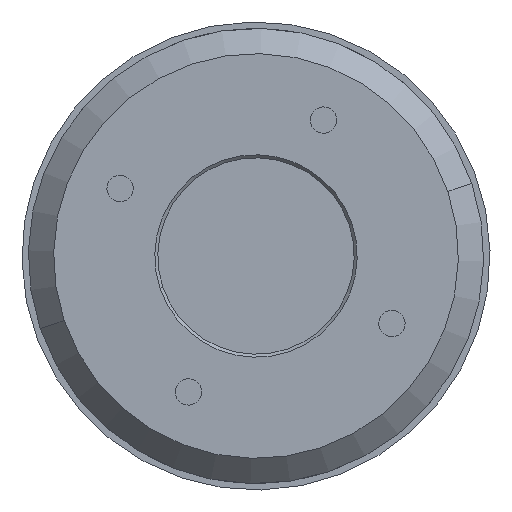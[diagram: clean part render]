
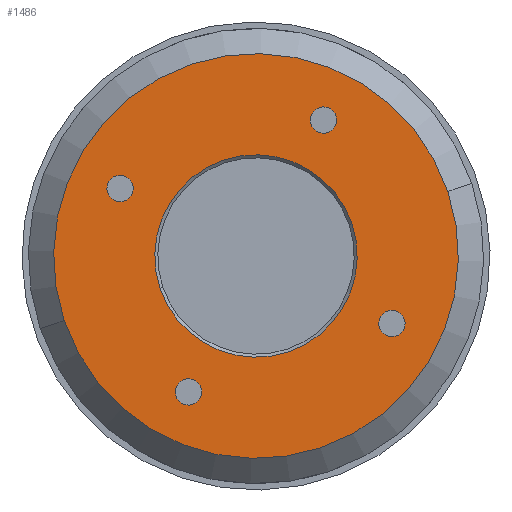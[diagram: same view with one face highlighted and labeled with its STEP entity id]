
A CAD part, front view. The second image highlights one B-rep face of the part: STEP entity #1486.
In plain terms, the highlighted planar face has unit normal (0, -1, 0).
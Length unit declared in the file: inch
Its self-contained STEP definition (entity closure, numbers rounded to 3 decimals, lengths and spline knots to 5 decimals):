
#23 = DIRECTION ( 'NONE',  ( 0., 1., 0. ) ) ;
#30 = CARTESIAN_POINT ( 'NONE',  ( 0., -0.55, 0. ) ) ;
#73 = EDGE_CURVE ( 'NONE', #906, #1903, #1144, .T. ) ;
#100 = AXIS2_PLACEMENT_3D ( 'NONE', #2277, #282, #2616 ) ;
#147 = DIRECTION ( 'NONE',  ( 0., -1., 0. ) ) ;
#151 = CARTESIAN_POINT ( 'NONE',  ( -0.47388, -0.55, -0.15948 ) ) ;
#170 = CARTESIAN_POINT ( 'NONE',  ( -0.73339, -0.55, 0.31274 ) ) ;
#175 = FACE_BOUND ( 'NONE', #649, .T. ) ;
#282 = DIRECTION ( 'NONE',  ( 0., -1., 0. ) ) ;
#361 = CARTESIAN_POINT ( 'NONE',  ( -0.61018, -0.55, 0.35421 ) ) ;
#369 = DIRECTION ( 'NONE',  ( 0., -1., 0. ) ) ;
#382 = DIRECTION ( 'NONE',  ( -0.948, 0., -0.319 ) ) ;
#400 = ORIENTED_EDGE ( 'NONE', *, *, #2669, .F. ) ;
#440 = CIRCLE ( 'NONE', #4124, 0.065 ) ;
#456 = AXIS2_PLACEMENT_3D ( 'NONE', #2354, #369, #2702 ) ;
#489 = CARTESIAN_POINT ( 'NONE',  ( 0., -0.55, 0. ) ) ;
#508 = EDGE_LOOP ( 'NONE', ( #1771, #2580 ) ) ;
#606 = EDGE_CURVE ( 'NONE', #1903, #906, #3071, .T. ) ;
#607 = CIRCLE ( 'NONE', #4170, 0.5 ) ;
#640 = ORIENTED_EDGE ( 'NONE', *, *, #3138, .F. ) ;
#649 = EDGE_LOOP ( 'NONE', ( #3422, #1126 ) ) ;
#653 = VERTEX_POINT ( 'NONE', #170 ) ;
#666 = DIRECTION ( 'NONE',  ( 0., -1., 0. ) ) ;
#794 = CARTESIAN_POINT ( 'NONE',  ( -0.39508, -0.55, -0.69252 ) ) ;
#838 = EDGE_CURVE ( 'NONE', #3035, #3882, #2657, .T. ) ;
#898 = EDGE_CURVE ( 'NONE', #1570, #2798, #2338, .T. ) ;
#906 = VERTEX_POINT ( 'NONE', #1765 ) ;
#943 = AXIS2_PLACEMENT_3D ( 'NONE', #3455, #1441, #3799 ) ;
#974 = CARTESIAN_POINT ( 'NONE',  ( 0.61018, -0.55, -0.35421 ) ) ;
#1002 = DIRECTION ( 'NONE',  ( 0., -1., 0. ) ) ;
#1064 = DIRECTION ( 'NONE',  ( 0., -1., 0. ) ) ;
#1070 = CIRCLE ( 'NONE', #3850, 0.065 ) ;
#1112 = DIRECTION ( 'NONE',  ( 0., -1., 0. ) ) ;
#1113 = EDGE_LOOP ( 'NONE', ( #640, #400 ) ) ;
#1126 = ORIENTED_EDGE ( 'NONE', *, *, #838, .F. ) ;
#1136 = CARTESIAN_POINT ( 'NONE',  ( 0.67178, -0.55, -0.33348 ) ) ;
#1144 = CIRCLE ( 'NONE', #2380, 1. ) ;
#1164 = CARTESIAN_POINT ( 'NONE',  ( -0.33348, -0.55, -0.67178 ) ) ;
#1268 = EDGE_CURVE ( 'NONE', #2077, #1788, #607, .T. ) ;
#1298 = CARTESIAN_POINT ( 'NONE',  ( -0.67178, -0.55, 0.33348 ) ) ;
#1317 = AXIS2_PLACEMENT_3D ( 'NONE', #3105, #1112, #3449 ) ;
#1373 = CARTESIAN_POINT ( 'NONE',  ( 0.39508, -0.55, 0.69252 ) ) ;
#1429 = EDGE_CURVE ( 'NONE', #2409, #2049, #2265, .T. ) ;
#1441 = DIRECTION ( 'NONE',  ( 0., -1., 0. ) ) ;
#1455 = DIRECTION ( 'NONE',  ( 0.319, 0., -0.948 ) ) ;
#1486 = ADVANCED_FACE ( 'NONE', ( #3631, #2842, #2737, #1840, #175, #3739 ), #3811, .T. ) ;
#1487 = DIRECTION ( 'NONE',  ( -0.948, 0., -0.319 ) ) ;
#1539 = EDGE_CURVE ( 'NONE', #1788, #2077, #2537, .T. ) ;
#1570 = VERTEX_POINT ( 'NONE', #1373 ) ;
#1624 = DIRECTION ( 'NONE',  ( -0.319, 0., 0.948 ) ) ;
#1652 = AXIS2_PLACEMENT_3D ( 'NONE', #1298, #3646, #1624 ) ;
#1714 = CARTESIAN_POINT ( 'NONE',  ( -0.94777, -0.55, -0.31896 ) ) ;
#1765 = CARTESIAN_POINT ( 'NONE',  ( 0.94777, -0.55, 0.31896 ) ) ;
#1771 = ORIENTED_EDGE ( 'NONE', *, *, #1268, .T. ) ;
#1788 = VERTEX_POINT ( 'NONE', #2493 ) ;
#1792 = CARTESIAN_POINT ( 'NONE',  ( 0.1547, -0.55, -0.45967 ) ) ;
#1840 = FACE_BOUND ( 'NONE', #2595, .T. ) ;
#1847 = EDGE_CURVE ( 'NONE', #3882, #3035, #4048, .T. ) ;
#1903 = VERTEX_POINT ( 'NONE', #1714 ) ;
#2024 = CARTESIAN_POINT ( 'NONE',  ( 0., -0.55, 0. ) ) ;
#2049 = VERTEX_POINT ( 'NONE', #794 ) ;
#2077 = VERTEX_POINT ( 'NONE', #151 ) ;
#2258 = CIRCLE ( 'NONE', #100, 0.065 ) ;
#2265 = CIRCLE ( 'NONE', #943, 0.065 ) ;
#2277 = CARTESIAN_POINT ( 'NONE',  ( 0.33348, -0.55, 0.67178 ) ) ;
#2338 = CIRCLE ( 'NONE', #1317, 0.065 ) ;
#2354 = CARTESIAN_POINT ( 'NONE',  ( 0.67178, -0.55, -0.33348 ) ) ;
#2357 = DIRECTION ( 'NONE',  ( -0.948, 0., -0.319 ) ) ;
#2371 = DIRECTION ( 'NONE',  ( 0., 1., 0. ) ) ;
#2380 = AXIS2_PLACEMENT_3D ( 'NONE', #489, #147, #2399 ) ;
#2399 = DIRECTION ( 'NONE',  ( -0.948, 0., -0.319 ) ) ;
#2409 = VERTEX_POINT ( 'NONE', #3960 ) ;
#2474 = CIRCLE ( 'NONE', #1652, 0.065 ) ;
#2493 = CARTESIAN_POINT ( 'NONE',  ( 0.47388, -0.55, 0.15948 ) ) ;
#2537 = CIRCLE ( 'NONE', #3294, 0.5 ) ;
#2573 = EDGE_LOOP ( 'NONE', ( #3964, #2760 ) ) ;
#2580 = ORIENTED_EDGE ( 'NONE', *, *, #1539, .T. ) ;
#2595 = EDGE_LOOP ( 'NONE', ( #3552, #4008 ) ) ;
#2613 = EDGE_CURVE ( 'NONE', #2798, #1570, #2258, .T. ) ;
#2616 = DIRECTION ( 'NONE',  ( 0.948, 0., 0.319 ) ) ;
#2657 = CIRCLE ( 'NONE', #4110, 0.065 ) ;
#2669 = EDGE_CURVE ( 'NONE', #3949, #653, #2474, .T. ) ;
#2702 = DIRECTION ( 'NONE',  ( 0.319, 0., -0.948 ) ) ;
#2725 = AXIS2_PLACEMENT_3D ( 'NONE', #1792, #666, #2988 ) ;
#2737 = FACE_BOUND ( 'NONE', #1113, .T. ) ;
#2760 = ORIENTED_EDGE ( 'NONE', *, *, #1429, .F. ) ;
#2798 = VERTEX_POINT ( 'NONE', #3719 ) ;
#2842 = FACE_BOUND ( 'NONE', #2573, .T. ) ;
#2936 = ORIENTED_EDGE ( 'NONE', *, *, #73, .T. ) ;
#2988 = DIRECTION ( 'NONE',  ( -0.948, 0., -0.319 ) ) ;
#2997 = CARTESIAN_POINT ( 'NONE',  ( -0.67178, -0.55, 0.33348 ) ) ;
#3035 = VERTEX_POINT ( 'NONE', #3244 ) ;
#3061 = CARTESIAN_POINT ( 'NONE',  ( 0., -0.55, 0. ) ) ;
#3071 = CIRCLE ( 'NONE', #3787, 1. ) ;
#3105 = CARTESIAN_POINT ( 'NONE',  ( 0.33348, -0.55, 0.67178 ) ) ;
#3138 = EDGE_CURVE ( 'NONE', #653, #3949, #440, .T. ) ;
#3244 = CARTESIAN_POINT ( 'NONE',  ( 0.73339, -0.55, -0.31274 ) ) ;
#3294 = AXIS2_PLACEMENT_3D ( 'NONE', #2024, #23, #2357 ) ;
#3323 = DIRECTION ( 'NONE',  ( -0.319, 0., 0.948 ) ) ;
#3394 = DIRECTION ( 'NONE',  ( -0.948, 0., -0.319 ) ) ;
#3422 = ORIENTED_EDGE ( 'NONE', *, *, #1847, .F. ) ;
#3449 = DIRECTION ( 'NONE',  ( 0.948, 0., 0.319 ) ) ;
#3455 = CARTESIAN_POINT ( 'NONE',  ( -0.33348, -0.55, -0.67178 ) ) ;
#3467 = DIRECTION ( 'NONE',  ( 0., -1., 0. ) ) ;
#3497 = DIRECTION ( 'NONE',  ( 0., -1., 0. ) ) ;
#3552 = ORIENTED_EDGE ( 'NONE', *, *, #2613, .F. ) ;
#3631 = FACE_OUTER_BOUND ( 'NONE', #4004, .T. ) ;
#3646 = DIRECTION ( 'NONE',  ( 0., -1., 0. ) ) ;
#3662 = EDGE_CURVE ( 'NONE', #2049, #2409, #1070, .T. ) ;
#3719 = CARTESIAN_POINT ( 'NONE',  ( 0.27187, -0.55, 0.65105 ) ) ;
#3739 = FACE_BOUND ( 'NONE', #508, .T. ) ;
#3787 = AXIS2_PLACEMENT_3D ( 'NONE', #3061, #1064, #3394 ) ;
#3799 = DIRECTION ( 'NONE',  ( -0.948, 0., -0.319 ) ) ;
#3811 = PLANE ( 'NONE',  #2725 ) ;
#3850 = AXIS2_PLACEMENT_3D ( 'NONE', #1164, #3497, #1487 ) ;
#3882 = VERTEX_POINT ( 'NONE', #974 ) ;
#3949 = VERTEX_POINT ( 'NONE', #361 ) ;
#3960 = CARTESIAN_POINT ( 'NONE',  ( -0.27187, -0.55, -0.65105 ) ) ;
#3964 = ORIENTED_EDGE ( 'NONE', *, *, #3662, .F. ) ;
#4004 = EDGE_LOOP ( 'NONE', ( #2936, #4070 ) ) ;
#4008 = ORIENTED_EDGE ( 'NONE', *, *, #898, .F. ) ;
#4048 = CIRCLE ( 'NONE', #456, 0.065 ) ;
#4070 = ORIENTED_EDGE ( 'NONE', *, *, #606, .T. ) ;
#4110 = AXIS2_PLACEMENT_3D ( 'NONE', #1136, #3467, #1455 ) ;
#4124 = AXIS2_PLACEMENT_3D ( 'NONE', #2997, #1002, #3323 ) ;
#4170 = AXIS2_PLACEMENT_3D ( 'NONE', #30, #2371, #382 ) ;
